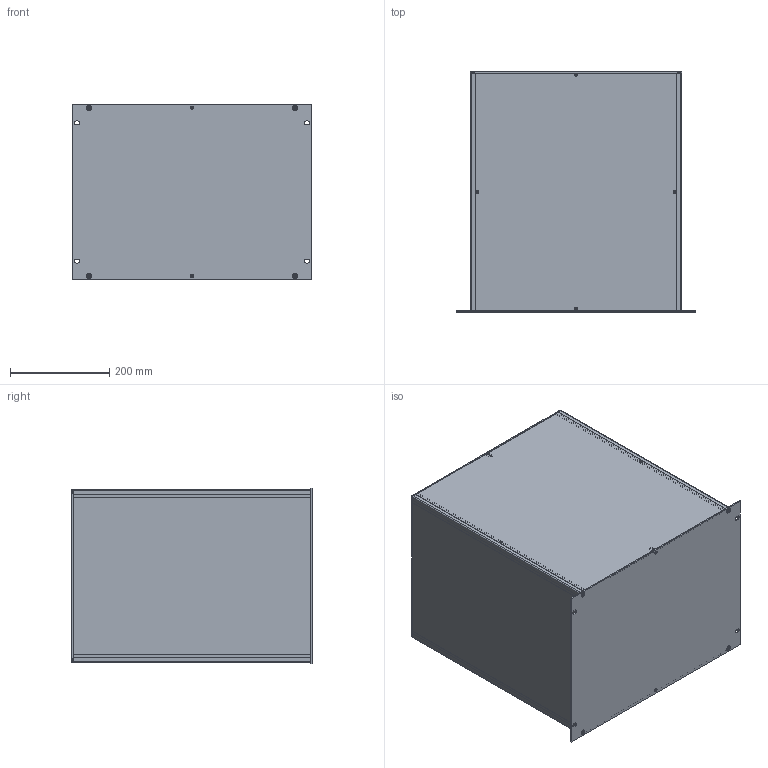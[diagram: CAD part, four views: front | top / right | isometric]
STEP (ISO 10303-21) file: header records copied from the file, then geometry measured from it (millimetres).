
FILE_DESCRIPTION(/* description */ (''),/* implementation_level */ '2;1');
FILE_NAME(/* name */ '//diskstation/Kunden/Gehäuse/Gehäuse/8HE/step/19 Zoll 8HE Rack Gehäuse Tiefe-480.step',/* time_stamp */ '2022-02-17T17:14:52+01:00',/* author */ (''),/* organization */ (''),/* preprocessor_version */ 'ST-DEVELOPER v18.1',/* originating_system */ 'Autodesk Translation Framework v10.10.0.1391',/* authorisation */ '');
FILE_SCHEMA (('AUTOMOTIVE_DESIGN { 1 0 10303 214 3 1 1 }'));
Length unit declared in the file: millimetre
Products named in the file (28): 8HE Gehäuse mit parametern; Gehäuse; Gehäuseprofil 1 unten links; Gehäuseprofil 2 oben rechts; Gehäuseprofil 1 unten rechts; Gehäuseprofil 2 oben links; Rückplatte; Deckel; Seitenteil links; Seitenteil rechts; Bodenplatte; Montageklotz Front/Deckel; Montageklotz Front/Boden; Montageklotz Rück/Deckel; Montageklotz Rück/Boden; Gewindestreifen; Frontplatte; Schrauben M5; Schraube Front; Schraube Front (1); Schraube Front (2); Schraube Front (3); Schraube Rück (1); Schraube Rück; Schraube Rück (2); Schraube Rück (3); Schrauben M3; HI_Senkschraube DIN 965 A v2 M3x5 24677.030.005(High)
Assembly tree (37 placements, depth 3):
  8HE Gehäuse mit parametern
    Gehäuse
      Gehäuseprofil 1 unten links
      Gehäuseprofil 2 oben rechts
      Gehäuseprofil 1 unten rechts
      Gehäuseprofil 2 oben links
      Rückplatte
      Deckel
      Seitenteil links
      Seitenteil rechts
      Bodenplatte
      Montageklotz Front/Deckel
      Montageklotz Front/Boden
      Montageklotz Rück/Deckel
      Montageklotz Rück/Boden
      Gewindestreifen  x2
    Frontplatte
    Schrauben M5
      Schraube Front
      Schraube Front (1)
      Schraube Front (2)
      Schraube Front (3)
      Schraube Rück (1)
      Schraube Rück
      Schraube Rück (2)
      Schraube Rück (3)
    Schrauben M3
      HI_Senkschraube DIN 965 A v2 M3x5 24677.030.005(High)  x10
Bounding box: 483 x 488.2 x 354.8 mm (x, y, z)
Volume: 2663004.7 mm3; surface area: 2274267.2 mm2
Topology: 34 solids, 34 shells, 944 faces, 2346 edges, 1470 vertices
Faces by surface type: cylinder 422, plane 342, cone 164, torus 8, bspline 8
Full cylindrical faces by diameter (mm): 2.529 x180, 3 x10, 3.2 x10, 4.234 x40, 5 x8, 5.2 x4, 5.3 x8, 5.6 x10, 9.5 x8
Entity records: 18600 total; most frequent: CARTESIAN_POINT 3348, DIRECTION 3135, ORIENTED_EDGE 2760, EDGE_CURVE 1380, AXIS2_PLACEMENT_3D 1195, VERTEX_POINT 868, EDGE_LOOP 866, LINE 745
